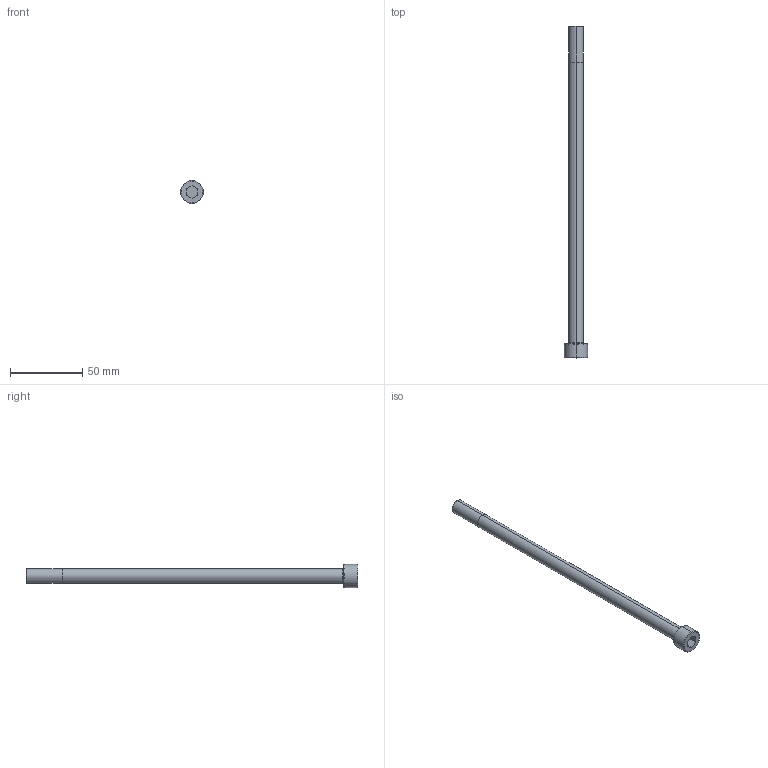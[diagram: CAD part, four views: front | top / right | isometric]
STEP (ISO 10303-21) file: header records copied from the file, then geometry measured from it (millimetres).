
FILE_DESCRIPTION (( 'STEP AP214' ), '1' );
FILE_NAME ('M_10X220.STEP', '2016-03-08T17:58:42', ( '' ), ( '' ), 'SwSTEP 2.0', 'SolidWorks 2014', '' );
FILE_SCHEMA (( 'AUTOMOTIVE_DESIGN' ));
Length unit declared in the file: millimetre
Products named in the file (1): M_10X220
Bounding box: 16 x 230 x 16 mm (x, y, z)
Volume: 18841.6 mm3; surface area: 8000.6 mm2
Topology: 1 solids, 1 shells, 25 faces, 52 edges, 32 vertices
Faces by surface type: plane 11, torus 6, cylinder 6, cone 2
Entity records: 746 total; most frequent: DIRECTION 130, CARTESIAN_POINT 110, ORIENTED_EDGE 104, EDGE_CURVE 52, AXIS2_PLACEMENT_3D 52, VERTEX_POINT 32, EDGE_LOOP 28, LINE 26
